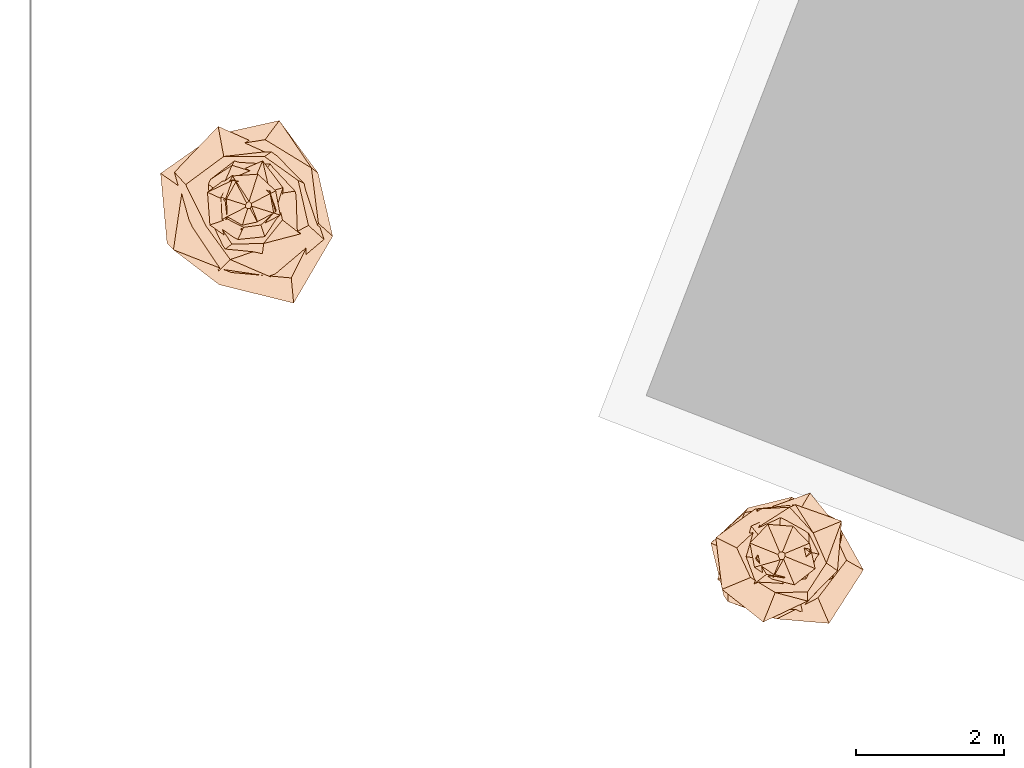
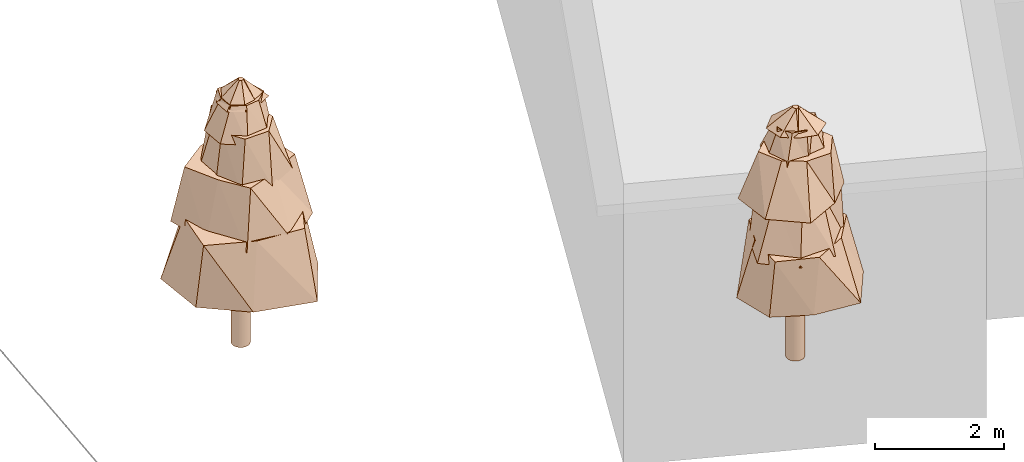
# Not in any storey, part 32 of 88: 2 geographic elements.
"""IFC4 model written with IfcOpenShell, lengths in metres."""

from ifc_helpers import new_model, si_unit, frame, origin_with_axes, place, context, subcontext, project, spatial, circle, extrude, faceted_brep, element, save


model = new_model("IFC4")

# Units and contexts
model_context = context("Model", 3, precision=1e-05, world=origin_with_axes())
body_context = subcontext(model_context, "Body", "Model", "MODEL_VIEW")
ifc_project = project(units=[si_unit("LENGTHUNIT", "METRE"), si_unit("AREAUNIT", "SQUARE_METRE"), si_unit("VOLUMEUNIT", "CUBIC_METRE"), si_unit("PLANEANGLEUNIT", "RADIAN")], contexts=[model_context])

# Sites
site_1_placement = place(None, origin_with_axes())
site_1 = spatial("IfcSite", under=ifc_project, at=site_1_placement, Name="CH907857693633", CompositionType="ELEMENT")
site_2_placement = place(None, origin_with_axes())
site_2 = spatial("IfcSite", under=site_1, at=site_2_placement, Name="Vegetation", CompositionType="ELEMENT")

# Geographic elements
geographic_element_1_placement = place(None, frame((2.94200003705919, 91.1400033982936, 4.30401611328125), z_axis=(0.0, 0.0, 1.0), x_axis=(1.0, 0.0, 0.0)))
element("IfcGeographicElement", 1, at=geographic_element_1_placement, inside=site_2, Name="Tree_einzelbaum", ObjectType="VEGETATION", PredefinedType="USERDEFINED", context=body_context, shape_type="Brep", body=[
    extrude(circle(Radius=0.15), origin_with_axes(), (0.0, 0.0, 1.0), 1.35136791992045),
    faceted_brep([(1.14276707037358, -0.417656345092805, 1.35136791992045), (0.614263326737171, -1.32188208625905, 1.35136791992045), (-0.39244285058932, -1.0737793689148, 1.35136791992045), (-1.09996534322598, -0.51114118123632, 1.35136791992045), (-1.18686168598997, 0.433771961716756, 1.35136791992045), (-0.443877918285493, 0.955216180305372, 1.35136791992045), (0.419671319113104, 1.14828032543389, 1.35136791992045), (0.944162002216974, 0.438741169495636, 1.35136791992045), (0.855060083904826, 0.506755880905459, 2.54646355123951), (0.227604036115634, 0.88989684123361, 2.54646355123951), (-0.461072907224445, 0.777978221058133, 2.54646355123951), (-0.890267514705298, 0.227698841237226, 2.54646355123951), (-1.01278901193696, -0.600234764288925, 2.54646355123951), (-0.23210205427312, -0.907483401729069, 2.54646355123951), (0.581736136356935, -0.981575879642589, 2.54646355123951), (0.948901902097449, -0.242695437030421, 2.54646355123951), (0.944162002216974, 0.438741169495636, 1.35136791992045), (0.419671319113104, 1.14828032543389, 1.35136791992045), (0.227604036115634, 0.88989684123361, 2.54646355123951), (0.855060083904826, 0.506755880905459, 2.54646355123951), (0.419671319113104, 1.14828032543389, 1.35136791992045), (-0.443877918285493, 0.955216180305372, 1.35136791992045), (-0.461072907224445, 0.777978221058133, 2.54646355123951), (0.227604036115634, 0.88989684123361, 2.54646355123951), (-0.443877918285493, 0.955216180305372, 1.35136791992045), (-1.18686168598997, 0.433771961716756, 1.35136791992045), (-0.890267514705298, 0.227698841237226, 2.54646355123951), (-0.461072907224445, 0.777978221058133, 2.54646355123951), (-1.18686168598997, 0.433771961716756, 1.35136791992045), (-1.09996534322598, -0.51114118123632, 1.35136791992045), (-1.01278901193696, -0.600234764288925, 2.54646355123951), (-0.890267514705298, 0.227698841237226, 2.54646355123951), (-1.09996534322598, -0.51114118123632, 1.35136791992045), (-0.39244285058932, -1.0737793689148, 1.35136791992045), (-0.23210205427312, -0.907483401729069, 2.54646355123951), (-1.01278901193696, -0.600234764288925, 2.54646355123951), (-0.39244285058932, -1.0737793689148, 1.35136791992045), (0.614263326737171, -1.32188208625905, 1.35136791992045), (0.581736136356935, -0.981575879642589, 2.54646355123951), (-0.23210205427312, -0.907483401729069, 2.54646355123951), (0.614263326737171, -1.32188208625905, 1.35136791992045), (1.14276707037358, -0.417656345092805, 1.35136791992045), (0.948901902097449, -0.242695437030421, 2.54646355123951), (0.581736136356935, -0.981575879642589, 2.54646355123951), (1.14276707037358, -0.417656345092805, 1.35136791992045), (0.944162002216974, 0.438741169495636, 1.35136791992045), (0.855060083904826, 0.506755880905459, 2.54646355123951), (0.948901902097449, -0.242695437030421, 2.54646355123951)], [[[0, 1, 2, 3, 4, 5, 6, 7]], [[8, 9, 10, 11, 12, 13, 14, 15]], [[16, 17, 18, 19]], [[20, 21, 22, 23]], [[24, 25, 26, 27]], [[28, 29, 30, 31]], [[32, 33, 34, 35]], [[36, 37, 38, 39]], [[40, 41, 42, 43]], [[44, 45, 46, 47]]]),
    faceted_brep([(1.02503118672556, -0.459590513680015, 2.36719920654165), (0.381861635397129, -1.00261636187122, 2.36719920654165), (-0.398172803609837, -0.888050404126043, 2.36719920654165), (-0.790444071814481, -0.301052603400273, 2.36719920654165), (-0.999428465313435, 0.44811108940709, 2.36719920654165), (-0.407555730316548, 1.07007880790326, 2.36719920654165), (0.330471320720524, 0.737054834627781, 2.36719920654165), (0.77043953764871, 0.293433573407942, 2.36719920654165), (0.674772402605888, 0.337601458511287, 3.44642148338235), (0.220236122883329, 0.661270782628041, 3.44642148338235), (-0.331616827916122, 0.662810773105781, 3.44642148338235), (-0.847162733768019, 0.282147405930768, 3.44642148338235), (-0.568295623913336, -0.284329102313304, 3.44642148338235), (-0.244008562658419, -0.732648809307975, 3.44642148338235), (0.277070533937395, -0.553787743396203, 3.44642148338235), (0.814719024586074, -0.27134203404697, 3.44642148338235), (0.77043953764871, 0.293433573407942, 2.36719920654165), (0.330471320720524, 0.737054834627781, 2.36719920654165), (0.220236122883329, 0.661270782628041, 3.44642148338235), (0.674772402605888, 0.337601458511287, 3.44642148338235), (0.330471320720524, 0.737054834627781, 2.36719920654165), (-0.407555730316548, 1.07007880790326, 2.36719920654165), (-0.331616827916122, 0.662810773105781, 3.44642148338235), (0.220236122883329, 0.661270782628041, 3.44642148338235), (-0.407555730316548, 1.07007880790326, 2.36719920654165), (-0.999428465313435, 0.44811108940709, 2.36719920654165), (-0.847162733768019, 0.282147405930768, 3.44642148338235), (-0.331616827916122, 0.662810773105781, 3.44642148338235), (-0.999428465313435, 0.44811108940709, 2.36719920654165), (-0.790444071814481, -0.301052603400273, 2.36719920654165), (-0.568295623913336, -0.284329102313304, 3.44642148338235), (-0.847162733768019, 0.282147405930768, 3.44642148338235), (-0.790444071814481, -0.301052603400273, 2.36719920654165), (-0.398172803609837, -0.888050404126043, 2.36719920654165), (-0.244008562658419, -0.732648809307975, 3.44642148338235), (-0.568295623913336, -0.284329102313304, 3.44642148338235), (-0.398172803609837, -0.888050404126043, 2.36719920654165), (0.381861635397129, -1.00261636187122, 2.36719920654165), (0.277070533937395, -0.553787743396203, 3.44642148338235), (-0.244008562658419, -0.732648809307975, 3.44642148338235), (0.381861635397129, -1.00261636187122, 2.36719920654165), (1.02503118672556, -0.459590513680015, 2.36719920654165), (0.814719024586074, -0.27134203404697, 3.44642148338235), (0.277070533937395, -0.553787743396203, 3.44642148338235), (1.02503118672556, -0.459590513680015, 2.36719920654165), (0.77043953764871, 0.293433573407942, 2.36719920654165), (0.674772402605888, 0.337601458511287, 3.44642148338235), (0.814719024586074, -0.27134203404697, 3.44642148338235)], [[[0, 1, 2, 3, 4, 5, 6, 7]], [[8, 9, 10, 11, 12, 13, 14, 15]], [[16, 17, 18, 19]], [[20, 21, 22, 23]], [[24, 25, 26, 27]], [[28, 29, 30, 31]], [[32, 33, 34, 35]], [[36, 37, 38, 39]], [[40, 41, 42, 43]], [[44, 45, 46, 47]]]),
    faceted_brep([(0.704947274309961, -0.385785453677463, 3.28453814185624), (0.191496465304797, -0.654437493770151, 3.28453814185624), (-0.330582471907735, -0.604074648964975, 3.28453814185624), (-0.54104465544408, -0.158316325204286, 3.28453814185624), (-0.571161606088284, 0.312570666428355, 3.28453814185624), (-0.179804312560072, 0.614479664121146, 3.28453814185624), (0.321481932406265, 0.587445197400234, 3.28453814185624), (0.684709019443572, 0.200354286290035, 3.28453814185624), (0.383690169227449, 0.155330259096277, 4.24049517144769), (0.178177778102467, 0.420570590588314, 4.24049517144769), (-0.219715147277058, 0.542730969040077, 4.24049517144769), (-0.38637976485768, 0.163692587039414, 4.24049517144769), (-0.444740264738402, -0.180045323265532, 4.24049517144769), (-0.221706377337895, -0.523315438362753, 4.24049517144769), (0.208469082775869, -0.514951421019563, 4.24049517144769), (0.462707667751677, -0.1960294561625, 4.24049517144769), (0.684709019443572, 0.200354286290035, 3.28453814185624), (0.321481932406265, 0.587445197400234, 3.28453814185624), (0.178177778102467, 0.420570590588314, 4.24049517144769), (0.383690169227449, 0.155330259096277, 4.24049517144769), (0.321481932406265, 0.587445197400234, 3.28453814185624), (-0.179804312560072, 0.614479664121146, 3.28453814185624), (-0.219715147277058, 0.542730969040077, 4.24049517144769), (0.178177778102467, 0.420570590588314, 4.24049517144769), (-0.179804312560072, 0.614479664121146, 3.28453814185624), (-0.571161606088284, 0.312570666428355, 3.28453814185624), (-0.38637976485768, 0.163692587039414, 4.24049517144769), (-0.219715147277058, 0.542730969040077, 4.24049517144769), (-0.571161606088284, 0.312570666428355, 3.28453814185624), (-0.54104465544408, -0.158316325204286, 3.28453814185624), (-0.444740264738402, -0.180045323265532, 4.24049517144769), (-0.38637976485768, 0.163692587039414, 4.24049517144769), (-0.54104465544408, -0.158316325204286, 3.28453814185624), (-0.330582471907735, -0.604074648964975, 3.28453814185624), (-0.221706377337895, -0.523315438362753, 4.24049517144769), (-0.444740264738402, -0.180045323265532, 4.24049517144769), (-0.330582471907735, -0.604074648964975, 3.28453814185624), (0.191496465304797, -0.654437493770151, 3.28453814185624), (0.208469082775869, -0.514951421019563, 4.24049517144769), (-0.221706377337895, -0.523315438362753, 4.24049517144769), (0.191496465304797, -0.654437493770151, 3.28453814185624), (0.704947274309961, -0.385785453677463, 3.28453814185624), (0.462707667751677, -0.1960294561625, 4.24049517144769), (0.208469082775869, -0.514951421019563, 4.24049517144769), (0.704947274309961, -0.385785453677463, 3.28453814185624), (0.684709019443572, 0.200354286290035, 3.28453814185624), (0.383690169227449, 0.155330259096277, 4.24049517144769), (0.462707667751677, -0.1960294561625, 4.24049517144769)], [[[0, 1, 2, 3, 4, 5, 6, 7]], [[8, 9, 10, 11, 12, 13, 14, 15]], [[16, 17, 18, 19]], [[20, 21, 22, 23]], [[24, 25, 26, 27]], [[28, 29, 30, 31]], [[32, 33, 34, 35]], [[36, 37, 38, 39]], [[40, 41, 42, 43]], [[44, 45, 46, 47]]]),
    faceted_brep([(0.453763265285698, -0.146517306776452, 4.09710161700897), (0.241521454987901, -0.471871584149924, 4.09710161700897), (-0.165989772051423, -0.51406937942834, 4.09710161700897), (-0.519159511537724, -0.265725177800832, 4.09710161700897), (-0.552055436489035, 0.178255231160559, 4.09710161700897), (-0.217701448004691, 0.42533334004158, 4.09710161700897), (0.194587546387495, 0.602636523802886, 4.09710161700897), (0.46907351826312, 0.24008930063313, 4.09710161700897), (0.290117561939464, 0.187216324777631, 4.68701335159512), (0.0645239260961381, 0.299310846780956, 4.68701335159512), (-0.217955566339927, 0.337752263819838, 4.68701335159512), (-0.314185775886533, 0.0677305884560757, 4.68701335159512), (-0.284135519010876, -0.183356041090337, 4.68701335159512), (-0.0640455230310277, -0.297091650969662, 4.68701335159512), (0.171236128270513, -0.265354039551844, 4.68701335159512), (0.367614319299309, -0.0792484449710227, 4.68701335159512), (0.46907351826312, 0.24008930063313, 4.09710161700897), (0.194587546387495, 0.602636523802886, 4.09710161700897), (0.0645239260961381, 0.299310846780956, 4.68701335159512), (0.290117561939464, 0.187216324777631, 4.68701335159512), (0.194587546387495, 0.602636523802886, 4.09710161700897), (-0.217701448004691, 0.42533334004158, 4.09710161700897), (-0.217955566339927, 0.337752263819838, 4.68701335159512), (0.0645239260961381, 0.299310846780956, 4.68701335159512), (-0.217701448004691, 0.42533334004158, 4.09710161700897), (-0.552055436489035, 0.178255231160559, 4.09710161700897), (-0.314185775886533, 0.0677305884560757, 4.68701335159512), (-0.217955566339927, 0.337752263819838, 4.68701335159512), (-0.552055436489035, 0.178255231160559, 4.09710161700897), (-0.519159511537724, -0.265725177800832, 4.09710161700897), (-0.284135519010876, -0.183356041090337, 4.68701335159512), (-0.314185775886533, 0.0677305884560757, 4.68701335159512), (-0.519159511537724, -0.265725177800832, 4.09710161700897), (-0.165989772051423, -0.51406937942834, 4.09710161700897), (-0.0640455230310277, -0.297091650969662, 4.68701335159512), (-0.284135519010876, -0.183356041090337, 4.68701335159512), (-0.165989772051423, -0.51406937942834, 4.09710161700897), (0.241521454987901, -0.471871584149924, 4.09710161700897), (0.171236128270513, -0.265354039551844, 4.68701335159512), (-0.0640455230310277, -0.297091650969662, 4.68701335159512), (0.241521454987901, -0.471871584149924, 4.09710161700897), (0.453763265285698, -0.146517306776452, 4.09710161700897), (0.367614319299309, -0.0792484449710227, 4.68701335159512), (0.171236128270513, -0.265354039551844, 4.68701335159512), (0.453763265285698, -0.146517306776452, 4.09710161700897), (0.46907351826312, 0.24008930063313, 4.09710161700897), (0.290117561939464, 0.187216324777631, 4.68701335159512), (0.367614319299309, -0.0792484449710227, 4.68701335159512)], [[[0, 1, 2, 3, 4, 5, 6, 7]], [[8, 9, 10, 11, 12, 13, 14, 15]], [[16, 17, 18, 19]], [[20, 21, 22, 23]], [[24, 25, 26, 27]], [[28, 29, 30, 31]], [[32, 33, 34, 35]], [[36, 37, 38, 39]], [[40, 41, 42, 43]], [[44, 45, 46, 47]]]),
    faceted_brep([(0.432571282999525, -0.131658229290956, 4.59852659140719), (0.148945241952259, -0.279281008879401, 4.59852659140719), (-0.101383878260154, -0.333103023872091, 4.59852659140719), (-0.355193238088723, -0.189430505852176, 4.59852659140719), (-0.368562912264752, 0.112176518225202, 4.59852659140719), (-0.212483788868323, 0.398419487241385, 4.59852659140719), (0.128783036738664, 0.423124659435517, 4.59852659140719), (0.370727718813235, 0.197715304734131, 4.59852659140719), (0.0411523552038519, 0.0275504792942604, 4.99136860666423), (0.0108144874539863, 0.0546237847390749, 4.99136860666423), (-0.0225098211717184, 0.0336230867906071, 4.99136860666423), (-0.0384955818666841, 0.0076214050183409, 4.99136860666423), (-0.0404602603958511, -0.0270871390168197, 4.99136860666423), (-0.00844083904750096, -0.0426345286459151, 4.99136860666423), (0.0266219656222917, -0.0397654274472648, 4.99136860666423), (0.0436979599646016, -0.00865137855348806, 4.99136860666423), (0.370727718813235, 0.197715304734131, 4.59852659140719), (0.128783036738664, 0.423124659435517, 4.59852659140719), (0.0108144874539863, 0.0546237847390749, 4.99136860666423), (0.0411523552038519, 0.0275504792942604, 4.99136860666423), (0.128783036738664, 0.423124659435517, 4.59852659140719), (-0.212483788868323, 0.398419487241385, 4.59852659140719), (-0.0225098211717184, 0.0336230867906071, 4.99136860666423), (0.0108144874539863, 0.0546237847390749, 4.99136860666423), (-0.212483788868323, 0.398419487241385, 4.59852659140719), (-0.368562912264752, 0.112176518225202, 4.59852659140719), (-0.0384955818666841, 0.0076214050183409, 4.99136860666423), (-0.0225098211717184, 0.0336230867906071, 4.99136860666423), (-0.368562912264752, 0.112176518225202, 4.59852659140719), (-0.355193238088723, -0.189430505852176, 4.59852659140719), (-0.0404602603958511, -0.0270871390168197, 4.99136860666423), (-0.0384955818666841, 0.0076214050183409, 4.99136860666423), (-0.355193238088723, -0.189430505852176, 4.59852659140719), (-0.101383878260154, -0.333103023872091, 4.59852659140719), (-0.00844083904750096, -0.0426345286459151, 4.99136860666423), (-0.0404602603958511, -0.0270871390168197, 4.99136860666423), (-0.101383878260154, -0.333103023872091, 4.59852659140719), (0.148945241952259, -0.279281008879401, 4.59852659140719), (0.0266219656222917, -0.0397654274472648, 4.99136860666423), (-0.00844083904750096, -0.0426345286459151, 4.99136860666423), (0.148945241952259, -0.279281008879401, 4.59852659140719), (0.432571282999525, -0.131658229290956, 4.59852659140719), (0.0436979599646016, -0.00865137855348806, 4.99136860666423), (0.0266219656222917, -0.0397654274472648, 4.99136860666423), (0.432571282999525, -0.131658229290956, 4.59852659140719), (0.370727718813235, 0.197715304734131, 4.59852659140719), (0.0411523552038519, 0.0275504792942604, 4.99136860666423), (0.0436979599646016, -0.00865137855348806, 4.99136860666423)], [[[0, 1, 2, 3, 4, 5, 6, 7]], [[8, 9, 10, 11, 12, 13, 14, 15]], [[16, 17, 18, 19]], [[20, 21, 22, 23]], [[24, 25, 26, 27]], [[28, 29, 30, 31]], [[32, 33, 34, 35]], [[36, 37, 38, 39]], [[40, 41, 42, 43]], [[44, 45, 46, 47]]]),
])
geographic_element_2_placement = place(None, frame((10.1580000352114, 86.4030034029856, 4.39129638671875), z_axis=(0.0, 0.0, 1.0), x_axis=(1.0, 0.0, 0.0)))
element("IfcGeographicElement", 2, at=geographic_element_2_placement, inside=site_2, Name="Tree_einzelbaum", ObjectType="VEGETATION", PredefinedType="USERDEFINED", context=body_context, shape_type="Brep", body=[
    extrude(circle(Radius=0.15), origin_with_axes(), (0.0, 0.0, 1.0), 1.32954785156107),
    faceted_brep([(1.10891373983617, -0.195587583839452, 1.32954785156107), (0.643654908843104, -0.919330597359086, 1.32954785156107), (-0.147687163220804, -0.837334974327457, 1.32954785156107), (-0.779931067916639, -0.546056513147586, 1.32954785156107), (-0.956231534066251, 0.168657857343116, 1.32954785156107), (-0.451070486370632, 0.644262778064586, 1.32954785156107), (0.139246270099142, 0.789478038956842, 1.32954785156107), (0.718546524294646, 0.503079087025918, 1.32954785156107), (0.611835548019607, 0.526759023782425, 2.40889689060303), (0.0504326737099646, 0.674949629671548, 2.40889689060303), (-0.499358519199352, 0.580009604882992, 2.40889689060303), (-0.697575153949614, 0.0521232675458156, 2.40889689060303), (-0.725036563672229, -0.62421929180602, 2.40889689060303), (-0.0642466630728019, -0.859824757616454, 2.40889689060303), (0.494058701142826, -0.573853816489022, 2.40889689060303), (0.879920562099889, -0.0657482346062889, 2.40889689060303), (0.718546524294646, 0.503079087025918, 1.32954785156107), (0.139246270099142, 0.789478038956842, 1.32954785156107), (0.0504326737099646, 0.674949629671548, 2.40889689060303), (0.611835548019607, 0.526759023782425, 2.40889689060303), (0.139246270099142, 0.789478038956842, 1.32954785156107), (-0.451070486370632, 0.644262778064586, 1.32954785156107), (-0.499358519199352, 0.580009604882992, 2.40889689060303), (0.0504326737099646, 0.674949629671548, 2.40889689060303), (-0.451070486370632, 0.644262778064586, 1.32954785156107), (-0.956231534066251, 0.168657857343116, 1.32954785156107), (-0.697575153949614, 0.0521232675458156, 2.40889689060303), (-0.499358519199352, 0.580009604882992, 2.40889689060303), (-0.956231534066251, 0.168657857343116, 1.32954785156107), (-0.779931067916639, -0.546056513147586, 1.32954785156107), (-0.725036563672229, -0.62421929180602, 2.40889689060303), (-0.697575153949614, 0.0521232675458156, 2.40889689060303), (-0.779931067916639, -0.546056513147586, 1.32954785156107), (-0.147687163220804, -0.837334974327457, 1.32954785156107), (-0.0642466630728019, -0.859824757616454, 2.40889689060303), (-0.725036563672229, -0.62421929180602, 2.40889689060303), (-0.147687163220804, -0.837334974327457, 1.32954785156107), (0.643654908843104, -0.919330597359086, 1.32954785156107), (0.494058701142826, -0.573853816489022, 2.40889689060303), (-0.0642466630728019, -0.859824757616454, 2.40889689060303), (0.643654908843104, -0.919330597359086, 1.32954785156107), (1.10891373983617, -0.195587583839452, 1.32954785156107), (0.879920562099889, -0.0657482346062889, 2.40889689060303), (0.494058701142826, -0.573853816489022, 2.40889689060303), (1.10891373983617, -0.195587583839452, 1.32954785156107), (0.718546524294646, 0.503079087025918, 1.32954785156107), (0.611835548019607, 0.526759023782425, 2.40889689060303), (0.879920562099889, -0.0657482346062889, 2.40889689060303)], [[[0, 1, 2, 3, 4, 5, 6, 7]], [[8, 9, 10, 11, 12, 13, 14, 15]], [[16, 17, 18, 19]], [[20, 21, 22, 23]], [[24, 25, 26, 27]], [[28, 29, 30, 31]], [[32, 33, 34, 35]], [[36, 37, 38, 39]], [[40, 41, 42, 43]], [[44, 45, 46, 47]]]),
    faceted_brep([(0.696303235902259, -0.318575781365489, 2.24699453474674), (0.28304138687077, -0.760476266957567, 2.24699453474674), (-0.352023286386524, -0.769408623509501, 2.24699453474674), (-0.866186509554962, -0.322385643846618, 2.24699453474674), (-0.657506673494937, 0.300825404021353, 2.24699453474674), (-0.231742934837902, 0.622647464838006, 2.24699453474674), (0.386895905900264, 0.845628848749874, 2.24699453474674), (0.824193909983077, 0.306756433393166, 2.24699453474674), (0.485166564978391, 0.238146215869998, 3.30391135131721), (0.157188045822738, 0.460270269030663, 3.30391135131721), (-0.313237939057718, 0.638148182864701, 3.30391135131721), (-0.479694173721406, 0.163821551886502, 3.30391135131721), (-0.515105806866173, -0.252842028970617, 3.30391135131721), (-0.187870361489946, -0.550112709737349, 3.30391135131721), (0.211919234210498, -0.431735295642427, 3.30391135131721), (0.679522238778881, -0.232065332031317, 3.30391135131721), (0.824193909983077, 0.306756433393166, 2.24699453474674), (0.386895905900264, 0.845628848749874, 2.24699453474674), (0.157188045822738, 0.460270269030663, 3.30391135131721), (0.485166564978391, 0.238146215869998, 3.30391135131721), (0.386895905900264, 0.845628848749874, 2.24699453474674), (-0.231742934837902, 0.622647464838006, 2.24699453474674), (-0.313237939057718, 0.638148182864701, 3.30391135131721), (0.157188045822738, 0.460270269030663, 3.30391135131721), (-0.231742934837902, 0.622647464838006, 2.24699453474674), (-0.657506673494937, 0.300825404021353, 2.24699453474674), (-0.479694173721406, 0.163821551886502, 3.30391135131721), (-0.313237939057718, 0.638148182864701, 3.30391135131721), (-0.657506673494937, 0.300825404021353, 2.24699453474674), (-0.866186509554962, -0.322385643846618, 2.24699453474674), (-0.515105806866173, -0.252842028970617, 3.30391135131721), (-0.479694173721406, 0.163821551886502, 3.30391135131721), (-0.866186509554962, -0.322385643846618, 2.24699453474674), (-0.352023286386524, -0.769408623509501, 2.24699453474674), (-0.187870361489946, -0.550112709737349, 3.30391135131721), (-0.515105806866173, -0.252842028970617, 3.30391135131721), (-0.352023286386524, -0.769408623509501, 2.24699453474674), (0.28304138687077, -0.760476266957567, 2.24699453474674), (0.211919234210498, -0.431735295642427, 3.30391135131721), (-0.187870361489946, -0.550112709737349, 3.30391135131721), (0.28304138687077, -0.760476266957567, 2.24699453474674), (0.696303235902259, -0.318575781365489, 2.24699453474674), (0.679522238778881, -0.232065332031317, 3.30391135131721), (0.211919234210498, -0.431735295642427, 3.30391135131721), (0.696303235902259, -0.318575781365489, 2.24699453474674), (0.824193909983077, 0.306756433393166, 2.24699453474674), (0.485166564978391, 0.238146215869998, 3.30391135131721), (0.679522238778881, -0.232065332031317, 3.30391135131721)], [[[0, 1, 2, 3, 4, 5, 6, 7]], [[8, 9, 10, 11, 12, 13, 14, 15]], [[16, 17, 18, 19]], [[20, 21, 22, 23]], [[24, 25, 26, 27]], [[28, 29, 30, 31]], [[32, 33, 34, 35]], [[36, 37, 38, 39]], [[40, 41, 42, 43]], [[44, 45, 46, 47]]]),
    faceted_brep([(0.757398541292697, -0.206937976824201, 3.14537382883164), (0.352404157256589, -0.617367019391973, 3.14537382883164), (-0.246386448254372, -0.901781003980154, 3.14537382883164), (-0.804531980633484, -0.459241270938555, 3.14537382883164), (-0.889132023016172, 0.242930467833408, 3.14537382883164), (-0.357665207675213, 0.626583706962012, 3.14537382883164), (0.18772904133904, 0.687093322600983, 3.14537382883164), (0.815049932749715, 0.46524510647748, 3.14537382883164), (0.428991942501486, 0.305410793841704, 4.01943093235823), (0.109817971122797, 0.652612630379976, 4.01943093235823), (-0.28497073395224, 0.400281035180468, 4.01943093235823), (-0.606233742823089, 0.102013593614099, 4.01943093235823), (-0.419002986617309, -0.29829939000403, 4.01943093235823), (-0.0843891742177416, -0.501497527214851, 4.01943093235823), (0.352625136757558, -0.495311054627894, 4.01943093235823), (0.607710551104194, -0.102262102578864, 4.01943093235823), (0.815049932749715, 0.46524510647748, 3.14537382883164), (0.18772904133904, 0.687093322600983, 3.14537382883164), (0.109817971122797, 0.652612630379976, 4.01943093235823), (0.428991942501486, 0.305410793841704, 4.01943093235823), (0.18772904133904, 0.687093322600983, 3.14537382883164), (-0.357665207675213, 0.626583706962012, 3.14537382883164), (-0.28497073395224, 0.400281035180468, 4.01943093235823), (0.109817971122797, 0.652612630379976, 4.01943093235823), (-0.357665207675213, 0.626583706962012, 3.14537382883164), (-0.889132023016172, 0.242930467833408, 3.14537382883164), (-0.606233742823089, 0.102013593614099, 4.01943093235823), (-0.28497073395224, 0.400281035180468, 4.01943093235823), (-0.889132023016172, 0.242930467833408, 3.14537382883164), (-0.804531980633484, -0.459241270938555, 3.14537382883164), (-0.419002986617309, -0.29829939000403, 4.01943093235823), (-0.606233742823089, 0.102013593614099, 4.01943093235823), (-0.804531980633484, -0.459241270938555, 3.14537382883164), (-0.246386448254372, -0.901781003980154, 3.14537382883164), (-0.0843891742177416, -0.501497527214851, 4.01943093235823), (-0.419002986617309, -0.29829939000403, 4.01943093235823), (-0.246386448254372, -0.901781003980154, 3.14537382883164), (0.352404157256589, -0.617367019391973, 3.14537382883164), (0.352625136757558, -0.495311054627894, 4.01943093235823), (-0.0843891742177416, -0.501497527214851, 4.01943093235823), (0.352404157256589, -0.617367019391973, 3.14537382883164), (0.757398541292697, -0.206937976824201, 3.14537382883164), (0.607710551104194, -0.102262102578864, 4.01943093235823), (0.352625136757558, -0.495311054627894, 4.01943093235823), (0.757398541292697, -0.206937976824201, 3.14537382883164), (0.815049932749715, 0.46524510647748, 3.14537382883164), (0.428991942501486, 0.305410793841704, 4.01943093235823), (0.607710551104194, -0.102262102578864, 4.01943093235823)], [[[0, 1, 2, 3, 4, 5, 6, 7]], [[8, 9, 10, 11, 12, 13, 14, 15]], [[16, 17, 18, 19]], [[20, 21, 22, 23]], [[24, 25, 26, 27]], [[28, 29, 30, 31]], [[32, 33, 34, 35]], [[36, 37, 38, 39]], [[40, 41, 42, 43]], [[44, 45, 46, 47]]]),
    faceted_brep([(0.371897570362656, -0.360533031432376, 3.88832236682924), (0.00635692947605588, -0.409696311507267, 3.88832236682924), (-0.380658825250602, -0.392657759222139, 3.88832236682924), (-0.524059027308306, -0.00813140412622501, 3.88832236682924), (-0.409249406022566, 0.396743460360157, 3.88832236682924), (-0.00901267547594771, 0.580855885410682, 3.88832236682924), (0.362743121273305, 0.374177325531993, 3.88832236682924), (0.547278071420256, 0.00849167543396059, 3.88832236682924), (0.383769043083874, 0.0445293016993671, 4.44578498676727), (0.163572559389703, 0.206514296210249, 4.44578498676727), (-0.0328377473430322, 0.28300715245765, 4.44578498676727), (-0.252191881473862, 0.199752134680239, 4.44578498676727), (-0.335577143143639, -0.0389375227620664, 4.44578498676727), (-0.202400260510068, -0.255535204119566, 4.44578498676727), (0.0350325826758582, -0.301923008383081, 4.44578498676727), (0.214220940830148, -0.169676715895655, 4.44578498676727), (0.547278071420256, 0.00849167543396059, 3.88832236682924), (0.362743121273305, 0.374177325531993, 3.88832236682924), (0.163572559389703, 0.206514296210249, 4.44578498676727), (0.383769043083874, 0.0445293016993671, 4.44578498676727), (0.362743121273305, 0.374177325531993, 3.88832236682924), (-0.00901267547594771, 0.580855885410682, 3.88832236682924), (-0.0328377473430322, 0.28300715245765, 4.44578498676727), (0.163572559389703, 0.206514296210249, 4.44578498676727), (-0.00901267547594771, 0.580855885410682, 3.88832236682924), (-0.409249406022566, 0.396743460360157, 3.88832236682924), (-0.252191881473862, 0.199752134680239, 4.44578498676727), (-0.0328377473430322, 0.28300715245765, 4.44578498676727), (-0.409249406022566, 0.396743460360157, 3.88832236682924), (-0.524059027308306, -0.00813140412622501, 3.88832236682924), (-0.335577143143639, -0.0389375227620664, 4.44578498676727), (-0.252191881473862, 0.199752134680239, 4.44578498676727), (-0.524059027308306, -0.00813140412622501, 3.88832236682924), (-0.380658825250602, -0.392657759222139, 3.88832236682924), (-0.202400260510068, -0.255535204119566, 4.44578498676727), (-0.335577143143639, -0.0389375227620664, 4.44578498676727), (-0.380658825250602, -0.392657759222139, 3.88832236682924), (0.00635692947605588, -0.409696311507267, 3.88832236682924), (0.0350325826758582, -0.301923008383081, 4.44578498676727), (-0.202400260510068, -0.255535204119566, 4.44578498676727), (0.00635692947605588, -0.409696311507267, 3.88832236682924), (0.371897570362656, -0.360533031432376, 3.88832236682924), (0.214220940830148, -0.169676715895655, 4.44578498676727), (0.0350325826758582, -0.301923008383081, 4.44578498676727), (0.371897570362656, -0.360533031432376, 3.88832236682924), (0.547278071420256, 0.00849167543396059, 3.88832236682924), (0.383769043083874, 0.0445293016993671, 4.44578498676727), (0.214220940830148, -0.169676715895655, 4.44578498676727)], [[[0, 1, 2, 3, 4, 5, 6, 7]], [[8, 9, 10, 11, 12, 13, 14, 15]], [[16, 17, 18, 19]], [[20, 21, 22, 23]], [[24, 25, 26, 27]], [[28, 29, 30, 31]], [[32, 33, 34, 35]], [[36, 37, 38, 39]], [[40, 41, 42, 43]], [[44, 45, 46, 47]]]),
    faceted_brep([(0.455578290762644, -0.178207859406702, 4.36216559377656), (0.174257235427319, -0.398174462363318, 4.36216559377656), (-0.125532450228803, -0.320916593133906, 4.36216559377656), (-0.365090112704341, -0.159778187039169, 4.36216559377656), (-0.427638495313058, 0.167278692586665, 4.36216559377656), (-0.184217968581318, 0.420934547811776, 4.36216559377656), (0.15434301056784, 0.394569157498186, 4.36216559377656), (0.378128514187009, 0.165484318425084, 4.36216559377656), (0.0506384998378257, 0.0284934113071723, 4.72237693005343), (0.0134274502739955, 0.0479808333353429, 4.72237693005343), (-0.025584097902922, 0.0454680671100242, 4.72237693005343), (-0.0468251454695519, 0.0131040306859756, 4.72237693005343), (-0.0373970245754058, -0.0210426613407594, 4.72237693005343), (-0.0165106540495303, -0.0589981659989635, 4.72237693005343), (0.028681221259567, -0.0509722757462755, 4.72237693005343), (0.0481684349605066, -0.0134799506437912, 4.72237693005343), (0.378128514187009, 0.165484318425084, 4.36216559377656), (0.15434301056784, 0.394569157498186, 4.36216559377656), (0.0134274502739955, 0.0479808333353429, 4.72237693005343), (0.0506384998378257, 0.0284934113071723, 4.72237693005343), (0.15434301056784, 0.394569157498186, 4.36216559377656), (-0.184217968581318, 0.420934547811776, 4.36216559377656), (-0.025584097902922, 0.0454680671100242, 4.72237693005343), (0.0134274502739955, 0.0479808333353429, 4.72237693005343), (-0.184217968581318, 0.420934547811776, 4.36216559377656), (-0.427638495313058, 0.167278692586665, 4.36216559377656), (-0.0468251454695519, 0.0131040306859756, 4.72237693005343), (-0.025584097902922, 0.0454680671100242, 4.72237693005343), (-0.427638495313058, 0.167278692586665, 4.36216559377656), (-0.365090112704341, -0.159778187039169, 4.36216559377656), (-0.0373970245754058, -0.0210426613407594, 4.72237693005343), (-0.0468251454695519, 0.0131040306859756, 4.72237693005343), (-0.365090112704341, -0.159778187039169, 4.36216559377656), (-0.125532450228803, -0.320916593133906, 4.36216559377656), (-0.0165106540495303, -0.0589981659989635, 4.72237693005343), (-0.0373970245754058, -0.0210426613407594, 4.72237693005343), (-0.125532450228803, -0.320916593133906, 4.36216559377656), (0.174257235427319, -0.398174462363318, 4.36216559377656), (0.028681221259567, -0.0509722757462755, 4.72237693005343), (-0.0165106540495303, -0.0589981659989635, 4.72237693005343), (0.174257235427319, -0.398174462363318, 4.36216559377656), (0.455578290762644, -0.178207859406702, 4.36216559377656), (0.0481684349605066, -0.0134799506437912, 4.72237693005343), (0.028681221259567, -0.0509722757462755, 4.72237693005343), (0.455578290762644, -0.178207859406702, 4.36216559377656), (0.378128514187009, 0.165484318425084, 4.36216559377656), (0.0506384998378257, 0.0284934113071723, 4.72237693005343), (0.0481684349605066, -0.0134799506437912, 4.72237693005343)], [[[0, 1, 2, 3, 4, 5, 6, 7]], [[8, 9, 10, 11, 12, 13, 14, 15]], [[16, 17, 18, 19]], [[20, 21, 22, 23]], [[24, 25, 26, 27]], [[28, 29, 30, 31]], [[32, 33, 34, 35]], [[36, 37, 38, 39]], [[40, 41, 42, 43]], [[44, 45, 46, 47]]]),
])

save(model, "model.ifc")
